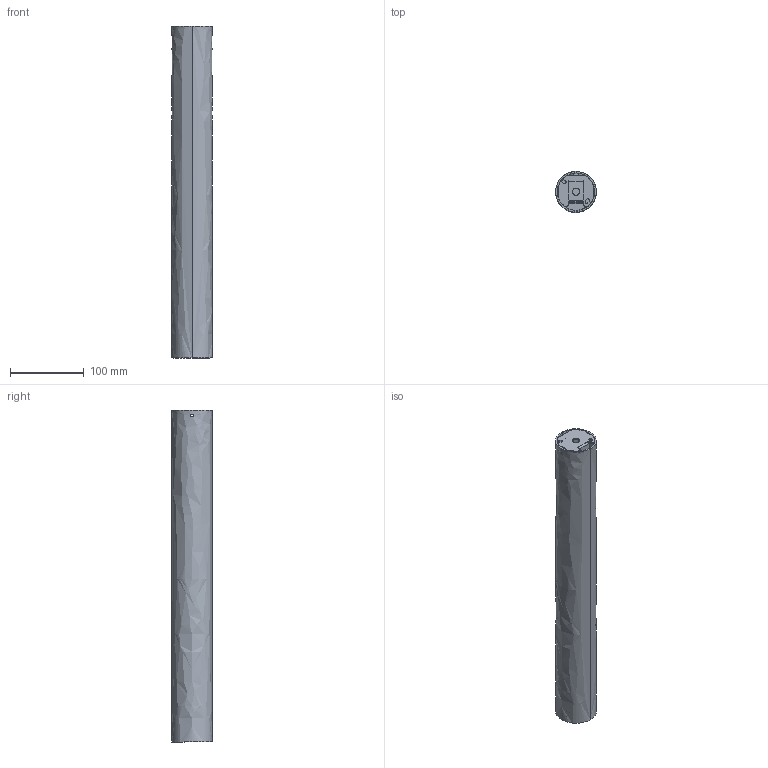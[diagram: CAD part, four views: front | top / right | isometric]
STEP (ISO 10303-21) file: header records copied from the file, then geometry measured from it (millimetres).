
FILE_DESCRIPTION(/* description */ (''),/* implementation_level */ '2;1');
FILE_NAME(/* name */ 'To-be P027__.045',/* time_stamp */ '2025-05-27T17:16:30+02:00',/* author */ (''),/* organization */ (''),/* preprocessor_version */ 'ST-DEVELOPER v16.5',/* originating_system */ '',/* authorisation */ '');
FILE_SCHEMA (('AUTOMOTIVE_DESIGN'));
Length unit declared in the file: millimetre
Products named in the file (7): Document; 3300.0018000.00 (tubo ALL D 55mm sp 2)_3306.0018045.00; 2100.0001000.00 (staffa cablaggio ACC 50x44x384mm sp 1,2 con rivetti)
_2100.0001000.00; tubular rivets gb_GB_CONNECTING_PIECE_RIVET_MER 3X3; 3200.0022000.00 (staffa cablaggio ACC 50x44x384mm sp 1,2)_3210.002200
0.00; 3200.0022001.00 (staffa cablaggio ''A'' ACC 50x44x384mm sp 1,2)_3
209.0022001.00; 3200.0022002.00 (staffa cablaggio ''B'' ACC 27,5x20x382,8mm sp 1,
2)_3209.0022002.00
Assembly tree (7 placements, depth 4):
  Document
    3300.0018000.00 (tubo ALL D 55mm sp 2)_3306.0018045.00
    2100.0001000.00 (staffa cablaggio ACC 50x44x384mm sp 1,2 con rivetti)
_2100.0001000.00
      tubular rivets gb_GB_CONNECTING_PIECE_RIVET_MER 3X3  x2
      3200.0022000.00 (staffa cablaggio ACC 50x44x384mm sp 1,2)_3210.002200
0.00
        3200.0022001.00 (staffa cablaggio ''A'' ACC 50x44x384mm sp 1,2)_3
209.0022001.00
        3200.0022002.00 (staffa cablaggio ''B'' ACC 27,5x20x382,8mm sp 1,
2)_3209.0022002.00
Bounding box: 55 x 55 x 450 mm (x, y, z)
Volume: 191165.5 mm3; surface area: 197024.9 mm2
Topology: 6 solids, 6 shells, 223 faces, 561 edges, 348 vertices
Faces by surface type: bspline 123, plane 100
Entity records: 8039 total; most frequent: CARTESIAN_POINT 4590, ORIENTED_EDGE 1062, EDGE_CURVE 531, VERTEX_POINT 332, B_SPLINE_CURVE_WITH_KNOTS 321, EDGE_LOOP 245, ADVANCED_FACE 208, FACE_OUTER_BOUND 208
